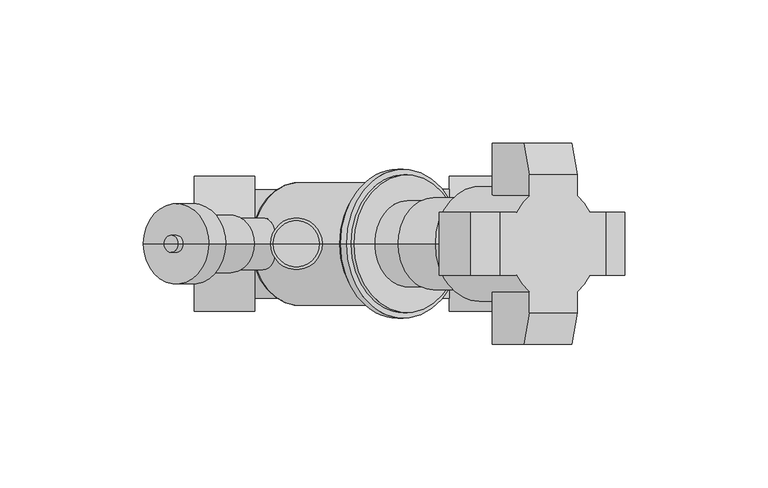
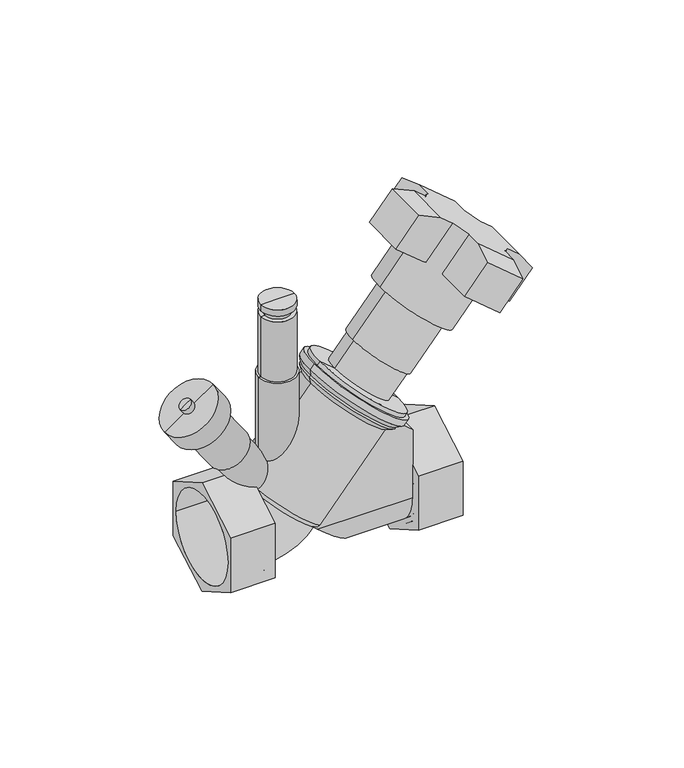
"""IFC4 building model written with IfcOpenShell, lengths in millimetres: valve geometry, 400_56_KOMF_VTR DN20-50 : DN 32, meet & vul/aftap."""

from ifc_helpers import new_model, si_unit, point, frame, origin, origin_2d, place, context, project, spatial, polyline, circle_curve, ellipse_curve, trimmed, segment, composite_curve, outline, extrude, source, transform, mapped, element, save
from ifc_brep_helpers import plane_surface, cylinder_surface, revolved_surface, advanced_brep


def valve_6c6028f1(model_context):
    return source(origin(), model_context, "Body", "SolidModel", [
        advanced_brep(
        [(-33.9, -23.5, 13.5677313), (-33.9, -23.5, -13.5677313), (-33.9, 0.0, -27.1354627), (-33.9, 23.5, -13.5677313), (-33.9, 23.5, 13.5677313), (-33.9, 0.0, 27.1354627), (-55.0, -23.5, 13.5677313), (-55.0, 0.0, 27.1354627), (-55.0, 23.5, 13.5677313), (-55.0, 23.5, -13.5677313), (-55.0, 0.0, -27.1354627), (-55.0, -23.5, -13.5677313), (-55.0, -21.2, 0.0), (-55.0, 21.2, 0.0), (-35.9, -21.2, 0.0), (-35.9, 21.2, 0.0)],
        [
            (0, 1),
            (1, 2),
            (2, 3),
            (3, 4),
            (4, 5),
            (5, 0),
            (6, 7),
            (7, 8),
            (8, 9),
            (9, 10),
            (10, 11),
            (11, 6),
            (12, 13, circle_curve(frame((-55.0, 0.0, 0.0), z_axis=(1.0, 0.0, 0.0), x_axis=(0.0, 1.0, 0.0)), 21.2)),
            (13, 12, circle_curve(frame((-55.0, 0.0, 0.0), z_axis=(1.0, 0.0, 0.0), x_axis=(0.0, 1.0, 0.0)), 21.2)),
            (0, 6),
            (11, 1),
            (10, 2),
            (9, 3),
            (8, 4),
            (7, 5),
            (14, 15, circle_curve(frame((-35.9, 0.0, 0.0), z_axis=(-1.0, 0.0, 0.0), x_axis=(0.0, 1.0, 0.0)), 21.2)),
            (15, 14, circle_curve(frame((-35.9, 0.0, 0.0), z_axis=(-1.0, 0.0, 0.0), x_axis=(0.0, 1.0, 0.0)), 21.2)),
            (15, 13),
            (12, 14),
        ],
        [
            plane_surface(frame((-33.9, -23.5, 13.5677313), z_axis=(1.0, 0.0, 0.0), x_axis=(0.0, 0.0, -1.0))),
            plane_surface(frame((-55.0, -23.5, 13.5677313), z_axis=(-1.0, 0.0, 0.0), x_axis=(0.0, 0.0, 1.0))),
            plane_surface(frame((-33.9, -23.5, 13.5677313), z_axis=(0.0, -1.0, 0.0), x_axis=(-1.0, 0.0, 0.0))),
            plane_surface(frame((-33.9, -23.5, -13.5677313), z_axis=(0.0, -0.5000000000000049, -0.8660254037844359), x_axis=(-1.0, 0.0, 0.0))),
            plane_surface(frame((-33.9, 0.0, -27.1354627), z_axis=(0.0, 0.5000000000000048, -0.8660254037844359), x_axis=(-1.0, 0.0, 0.0))),
            plane_surface(frame((-33.9, 23.5, -13.5677313), z_axis=(0.0, 1.0, 0.0), x_axis=(-1.0, 0.0, 0.0))),
            plane_surface(frame((-33.9, 23.5, 13.5677313), z_axis=(0.0, 0.500000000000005, 0.8660254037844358), x_axis=(-1.0, 0.0, 0.0))),
            plane_surface(frame((-33.9, 0.0, 27.1354627), z_axis=(0.0, -0.5000000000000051, 0.8660254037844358), x_axis=(-1.0, 0.0, 0.0))),
            plane_surface(frame((-35.9, 21.2, 0.0), z_axis=(-1.0, 0.0, 0.0), x_axis=(0.0, 0.0, 1.0))),
            revolved_surface(polyline([(-35.9, 21.2, 0.0), (-55.0, 21.2, 0.0)]), (-55.0, 0.0, 0.0), (1.0, 0.0, 0.0)),
        ],
        [
            (0, [[1, 2, 3, 4, 5, 6]]),
            (1, [[7, 8, 9, 10, 11, 12], [13, 14]]),
            (2, [[-1, 15, -12, 16]]),
            (3, [[-2, -16, -11, 17]]),
            (4, [[-3, -17, -10, 18]]),
            (5, [[-4, -18, -9, 19]]),
            (6, [[-5, -19, -8, 20]]),
            (7, [[-6, -20, -7, -15]]),
            (8, [[21, 22]]),
            (9, [[-22, 23, -13, 24]]),
            (9, [[-21, -24, -14, -23]]),
        ],
    ),
        advanced_brep(
        [(55.0, -23.5, 13.5677313), (55.0, -23.5, -13.5677313), (55.0, 0.0, -27.1354627), (55.0, 23.5, -13.5677313), (55.0, 23.5, 13.5677313), (55.0, 0.0, 27.1354627), (55.0, 21.2, 0.0), (55.0, -21.2, 0.0), (33.9, -23.5, 13.5677313), (33.9, 0.0, 27.1354627), (33.9, 23.5, 13.5677313), (33.9, 23.5, -13.5677313), (33.9, 0.0, -27.1354627), (33.9, -23.5, -13.5677313), (35.9, -21.2, 0.0), (35.9, 21.2, 0.0)],
        [
            (0, 1),
            (1, 2),
            (2, 3),
            (3, 4),
            (4, 5),
            (5, 0),
            (6, 7, circle_curve(frame((55.0, 0.0, 0.0), z_axis=(-1.0, 0.0, 0.0), x_axis=(0.0, 1.0, 0.0)), 21.2)),
            (7, 6, circle_curve(frame((55.0, 0.0, 0.0), z_axis=(-1.0, 0.0, 0.0), x_axis=(0.0, 1.0, 0.0)), 21.2)),
            (8, 9),
            (9, 10),
            (10, 11),
            (11, 12),
            (12, 13),
            (13, 8),
            (0, 8),
            (13, 1),
            (12, 2),
            (11, 3),
            (10, 4),
            (9, 5),
            (14, 15, circle_curve(frame((35.9, 0.0, 0.0), z_axis=(1.0, 0.0, 0.0), x_axis=(0.0, 1.0, 0.0)), 21.2)),
            (15, 14, circle_curve(frame((35.9, 0.0, 0.0), z_axis=(1.0, 0.0, 0.0), x_axis=(0.0, 1.0, 0.0)), 21.2)),
            (14, 7),
            (6, 15),
        ],
        [
            plane_surface(frame((55.0, -23.5, 13.5677313), z_axis=(1.0, 0.0, 0.0), x_axis=(0.0, 0.0, -1.0))),
            plane_surface(frame((33.9, -23.5, 13.5677313), z_axis=(-1.0, 0.0, 0.0), x_axis=(0.0, 0.0, 1.0))),
            plane_surface(frame((55.0, -23.5, 13.5677313), z_axis=(0.0, -1.0, 0.0), x_axis=(-1.0, 0.0, 0.0))),
            plane_surface(frame((55.0, -23.5, -13.5677313), z_axis=(0.0, -0.5000000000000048, -0.8660254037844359), x_axis=(-1.0, 0.0, 0.0))),
            plane_surface(frame((55.0, 0.0, -27.1354627), z_axis=(0.0, 0.5000000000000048, -0.8660254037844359), x_axis=(-1.0, 0.0, 0.0))),
            plane_surface(frame((55.0, 23.5, -13.5677313), z_axis=(0.0, 1.0, 0.0), x_axis=(-1.0, 0.0, 0.0))),
            plane_surface(frame((55.0, 23.5, 13.5677313), z_axis=(0.0, 0.5000000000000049, 0.8660254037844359), x_axis=(-1.0, 0.0, 0.0))),
            plane_surface(frame((55.0, 0.0, 27.1354627), z_axis=(0.0, -0.5000000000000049, 0.8660254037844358), x_axis=(-1.0, 0.0, 0.0))),
            plane_surface(frame((35.9, 21.2, 0.0), z_axis=(1.0, 0.0, 0.0), x_axis=(0.0, 0.0, -1.0))),
            revolved_surface(polyline([(55.0, 21.2, 0.0), (35.9, 21.2, 0.0)]), (35.9, 0.0, 0.0), (1.0, 0.0, 0.0)),
        ],
        [
            (0, [[1, 2, 3, 4, 5, 6], [7, 8]]),
            (1, [[9, 10, 11, 12, 13, 14]]),
            (2, [[-1, 15, -14, 16]]),
            (3, [[-2, -16, -13, 17]]),
            (4, [[-3, -17, -12, 18]]),
            (5, [[-4, -18, -11, 19]]),
            (6, [[-5, -19, -10, 20]]),
            (7, [[-6, -20, -9, -15]]),
            (8, [[21, 22]]),
            (9, [[-21, 23, -7, 24]]),
            (9, [[-22, -24, -8, -23]]),
        ],
    ),
        extrude(outline(polyline([(19.0, 35.9), (38.6390767, 32.9270418), (51.2176131, 17.9365258), (0.0, 20.5983845), (0.0, 35.9), (19.0, 35.9)])), frame((0.0, -2.0, 0.0), z_axis=(0.0, 1.0, 0.0), x_axis=(0.0, 0.0, 1.0)), (0.0, 0.0, 1.0), 4.0),
        extrude(outline(composite_curve([segment(trimmed(circle_curve(origin_2d(), 21.2), [point((0.0, -21.2))], [point((0.0, 21.2))], False, "CARTESIAN"), True, "CONTINUOUS"), segment(trimmed(circle_curve(origin_2d(), 21.2), [point((0.0, 21.2))], [point((0.0, -21.2))], False, "CARTESIAN"), True, "CONTINUOUS")], self_intersect=False)), frame((33.9, 0.0, 0.0), z_axis=(1.0, 0.0, 0.0), x_axis=(0.0, 1.0, 0.0)), (0.0, 0.0, 1.0), 2.0),
        advanced_brep(
        [(19.222101, 0.0, 52.749702), (37.6071676, 0.0, 37.3227994), (0.8370344, 0.0, 68.1766046), (-34.2830222, 0.0, 19.3213938), (-4.4072889, 0.0, -5.747323), (-19.3451556, 0.0, 6.7870354), (-3.6757306, 0.0, 58.9091912), (29.2641804, 0.0, 31.269324), (-1.5896248, 0.0, -5.5008093), (-34.5295359, 0.0, 22.1390579), (-4.3052665, 0.0, 62.0482491), (32.4648668, 0.0, 31.1944438), (-3.6624789, 0.0, 62.8142935), (33.1076544, 0.0, 31.9604883), (-3.9089926, 0.0, 65.6319576), (35.9253185, 0.0, 32.2070019), (-1.9806297, 0.0, 67.930091), (37.8536813, 0.0, 34.5051353), (-0.4485409, 0.0, 66.6445157), (36.3215924, 0.0, 35.7907105)],
        [
            (0, 1),
            (1, 2, circle_curve(frame((19.222101, 0.0, 52.749702), z_axis=(0.6427876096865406, 0.0, 0.7660444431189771), x_axis=(0.7660444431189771, 0.0, -0.6427876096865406)), 24.0)),
            (2, 0),
            (2, 1, circle_curve(frame((19.222101, 0.0, 52.749702), z_axis=(0.6427876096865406, 0.0, 0.7660444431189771), x_axis=(0.7660444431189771, 0.0, -0.6427876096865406)), 24.0)),
            (3, 4, circle_curve(frame((-19.3451556, 0.0, 6.7870354), z_axis=(-0.6427876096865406, 0.0, -0.7660444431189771), x_axis=(0.7660444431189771, 0.0, -0.6427876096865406)), 19.5)),
            (4, 5),
            (5, 3),
            (4, 3, circle_curve(frame((-19.3451556, 0.0, 6.7870354), z_axis=(-0.6427876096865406, 0.0, -0.7660444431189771), x_axis=(0.7660444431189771, 0.0, -0.6427876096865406)), 19.5)),
            (6, 7, circle_curve(frame((12.7942249, 0.0, 45.0892576), z_axis=(-0.6427876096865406, 0.0, -0.7660444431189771), x_axis=(0.7660444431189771, 0.0, -0.6427876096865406)), 21.5)),
            (7, 8),
            (8, 9, circle_curve(frame((-18.0595804, 0.0, 8.3191243), z_axis=(0.6427876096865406, 0.0, 0.7660444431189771), x_axis=(0.7660444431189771, 0.0, -0.6427876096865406)), 21.5)),
            (9, 6),
            (7, 6, circle_curve(frame((12.7942249, 0.0, 45.0892576), z_axis=(-0.6427876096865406, 0.0, -0.7660444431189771), x_axis=(0.7660444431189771, 0.0, -0.6427876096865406)), 21.5)),
            (9, 8, circle_curve(frame((-18.0595804, 0.0, 8.3191243), z_axis=(0.6427876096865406, 0.0, 0.7660444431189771), x_axis=(0.7660444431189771, 0.0, -0.6427876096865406)), 21.5)),
            (6, 10),
            (10, 11, circle_curve(frame((14.0798001, 0.0, 46.6213465), z_axis=(-0.6427876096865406, 0.0, -0.7660444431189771), x_axis=(0.7660444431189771, 0.0, -0.6427876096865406)), 24.0)),
            (11, 7),
            (11, 10, circle_curve(frame((14.0798001, 0.0, 46.6213465), z_axis=(-0.6427876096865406, 0.0, -0.7660444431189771), x_axis=(0.7660444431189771, 0.0, -0.6427876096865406)), 24.0)),
            (10, 12),
            (12, 13, circle_curve(frame((14.7225877, 0.0, 47.3873909), z_axis=(-0.6427876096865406, 0.0, -0.7660444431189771), x_axis=(0.7660444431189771, 0.0, -0.6427876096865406)), 24.0)),
            (13, 11),
            (13, 12, circle_curve(frame((14.7225877, 0.0, 47.3873909), z_axis=(-0.6427876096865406, 0.0, -0.7660444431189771), x_axis=(0.7660444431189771, 0.0, -0.6427876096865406)), 24.0)),
            (12, 14),
            (14, 15, circle_curve(frame((16.008163, 0.0, 48.9194798), z_axis=(-0.6427876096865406, 0.0, -0.7660444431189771), x_axis=(0.7660444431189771, 0.0, -0.6427876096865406)), 26.0)),
            (15, 13),
            (15, 14, circle_curve(frame((16.008163, 0.0, 48.9194798), z_axis=(-0.6427876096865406, 0.0, -0.7660444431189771), x_axis=(0.7660444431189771, 0.0, -0.6427876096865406)), 26.0)),
            (14, 16),
            (16, 17, circle_curve(frame((17.9365258, 0.0, 51.2176131), z_axis=(-0.6427876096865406, 0.0, -0.7660444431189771), x_axis=(0.7660444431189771, 0.0, -0.6427876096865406)), 26.0)),
            (17, 15),
            (17, 16, circle_curve(frame((17.9365258, 0.0, 51.2176131), z_axis=(-0.6427876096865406, 0.0, -0.7660444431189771), x_axis=(0.7660444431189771, 0.0, -0.6427876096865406)), 26.0)),
            (16, 18),
            (18, 19, circle_curve(frame((17.9365258, 0.0, 51.2176131), z_axis=(-0.6427876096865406, 0.0, -0.7660444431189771), x_axis=(0.7660444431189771, 0.0, -0.6427876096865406)), 24.0)),
            (19, 17),
            (19, 18, circle_curve(frame((17.9365258, 0.0, 51.2176131), z_axis=(-0.6427876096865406, 0.0, -0.7660444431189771), x_axis=(0.7660444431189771, 0.0, -0.6427876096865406)), 24.0)),
            (1, 19),
            (18, 2),
            (3, 9, circle_curve(frame((-32.997447, 0.0, 20.8534827), z_axis=(0.0, 1.0000000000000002, 0.0), x_axis=(0.6427876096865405, 0.0, 0.7660444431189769)), 2.0)),
            (8, 4, circle_curve(frame((-3.1217137, 0.0, -4.2152341), z_axis=(0.0, 1.0000000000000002, 0.0), x_axis=(0.6427876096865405, 0.0, 0.7660444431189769)), 2.0)),
        ],
        [
            plane_surface(frame((19.222101, 0.0, 52.749702), z_axis=(0.6427876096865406, 0.0, 0.7660444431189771), x_axis=(0.7660444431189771, 0.0, -0.6427876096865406))),
            plane_surface(frame((-19.3451556, 0.0, 6.7870354), z_axis=(-0.6427876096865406, 0.0, -0.7660444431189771), x_axis=(0.7660444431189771, 0.0, -0.6427876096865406))),
            cylinder_surface(frame((-25.0401545, 0.0, 0.0), z_axis=(0.6427876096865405, 0.0, 0.7660444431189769), x_axis=(0.7660444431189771, 0.0, -0.6427876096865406)), 21.5),
            revolved_surface(polyline([(29.2641804, 0.0, 31.269324), (32.4648668, 0.0, 31.1944438)]), (-25.0401545, 0.0, 0.0), (0.6427876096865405, 0.0, 0.7660444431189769)),
            cylinder_surface(frame((-25.0401545, 0.0, 0.0), z_axis=(0.6427876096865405, 0.0, 0.7660444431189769), x_axis=(0.7660444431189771, 0.0, -0.6427876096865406)), 24.0),
            revolved_surface(polyline([(33.1076544, 0.0, 31.9604883), (35.9253185, 0.0, 32.2070019)]), (-25.0401545, 0.0, 0.0), (0.6427876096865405, 0.0, 0.7660444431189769)),
            cylinder_surface(frame((-25.0401545, 0.0, 0.0), z_axis=(0.6427876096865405, 0.0, 0.7660444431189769), x_axis=(0.7660444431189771, 0.0, -0.6427876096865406)), 26.0),
            plane_surface(frame((17.9365258, 0.0, 51.2176131), z_axis=(0.6427876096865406, 0.0, 0.7660444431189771), x_axis=(0.7660444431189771, 0.0, -0.6427876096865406))),
            revolved_surface(trimmed(ellipse_curve(frame((-3.1217137, 0.0, -4.2152341), z_axis=(0.0, -1.0000000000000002, 0.0), x_axis=(0.6427876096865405, 0.0, 0.7660444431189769)), 2.0, 2.0), [point((-4.4072889, 0.0, -5.747323))], [point((-1.5896248, 0.0, -5.5008093))], True, "CARTESIAN"), (-25.0401545, 0.0, 0.0), (0.6427876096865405, 0.0, 0.7660444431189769)),
        ],
        [
            (0, [[1, 2, 3]]),
            (0, [[-1, -3, 4]]),
            (1, [[5, 6, 7]]),
            (1, [[-6, 8, -7]]),
            (2, [[9, 10, 11, 12]]),
            (2, [[-10, 13, -12, 14]]),
            (3, [[-9, 15, 16, 17]]),
            (3, [[-13, -17, 18, -15]]),
            (4, [[-16, 19, 20, 21]]),
            (4, [[-18, -21, 22, -19]]),
            (5, [[-20, 23, 24, 25]]),
            (5, [[-22, -25, 26, -23]]),
            (6, [[-24, 27, 28, 29]]),
            (6, [[-26, -29, 30, -27]]),
            (7, [[-28, 31, 32, 33]]),
            (7, [[-30, -33, 34, -31]]),
            (4, [[-2, 35, -32, 36]]),
            (4, [[-4, -36, -34, -35]]),
            (8, [[-5, 37, -11, 38]]),
            (8, [[-8, -38, -14, -37]]),
        ],
    ),
        advanced_brep(
        [(-28.3451556, 0.0, 70.5206582), (-10.3451556, 0.0, 70.5206582), (-10.3451556, 0.0, 6.7870354), (-28.3451556, 0.0, 6.7870354), (-27.3451556, 0.0, 70.5206582), (-11.3451556, 0.0, 70.5206582), (-27.3451556, 0.0, 100.5206582), (-11.3451556, 0.0, 100.5206582), (-25.3451556, 0.0, 100.5206582), (-13.3451556, 0.0, 100.5206582), (-19.3451556, 0.0, 6.7870354), (-25.3451556, 0.0, 103.5206582), (-13.3451556, 0.0, 103.5206582), (-27.3451556, 0.0, 103.5206582), (-11.3451556, 0.0, 103.5206582), (-27.3451556, 0.0, 106.5206582), (-11.3451556, 0.0, 106.5206582), (-19.3451556, 0.0, 106.5206582)],
        [
            (0, 1, circle_curve(frame((-19.3451556, 0.0, 70.5206582), z_axis=(0.0, 0.0, -1.0), x_axis=(1.0, 0.0, 0.0)), 9.0)),
            (1, 2),
            (2, 3, circle_curve(frame((-19.3451556, 0.0, 6.7870354), z_axis=(0.0, 0.0, 1.0), x_axis=(1.0, 0.0, 0.0)), 9.0)),
            (3, 0),
            (1, 0, circle_curve(frame((-19.3451556, 0.0, 70.5206582), z_axis=(0.0, 0.0, -1.0), x_axis=(1.0, 0.0, 0.0)), 9.0)),
            (3, 2, circle_curve(frame((-19.3451556, 0.0, 6.7870354), z_axis=(0.0, 0.0, 1.0), x_axis=(1.0, 0.0, 0.0)), 9.0)),
            (4, 5, circle_curve(frame((-19.3451556, 0.0, 70.5206582), z_axis=(0.0, 0.0, -1.0), x_axis=(1.0, 0.0, 0.0)), 8.0)),
            (5, 1),
            (0, 4),
            (5, 4, circle_curve(frame((-19.3451556, 0.0, 70.5206582), z_axis=(0.0, 0.0, -1.0), x_axis=(1.0, 0.0, 0.0)), 8.0)),
            (6, 7, circle_curve(frame((-19.3451556, 0.0, 100.5206582), z_axis=(0.0, 0.0, -1.0), x_axis=(1.0, 0.0, 0.0)), 8.0)),
            (7, 5),
            (4, 6),
            (7, 6, circle_curve(frame((-19.3451556, 0.0, 100.5206582), z_axis=(0.0, 0.0, -1.0), x_axis=(1.0, 0.0, 0.0)), 8.0)),
            (8, 9, circle_curve(frame((-19.3451556, 0.0, 100.5206582), z_axis=(0.0, 0.0, -1.0), x_axis=(1.0, 0.0, 0.0)), 6.0)),
            (9, 7),
            (6, 8),
            (9, 8, circle_curve(frame((-19.3451556, 0.0, 100.5206582), z_axis=(0.0, 0.0, -1.0), x_axis=(1.0, 0.0, 0.0)), 6.0)),
            (2, 10),
            (10, 3),
            (11, 12, circle_curve(frame((-19.3451556, 0.0, 103.5206582), z_axis=(0.0, 0.0, -1.0), x_axis=(1.0, 0.0, 0.0)), 6.0)),
            (12, 9),
            (8, 11),
            (12, 11, circle_curve(frame((-19.3451556, 0.0, 103.5206582), z_axis=(0.0, 0.0, -1.0), x_axis=(1.0, 0.0, 0.0)), 6.0)),
            (13, 14, circle_curve(frame((-19.3451556, 0.0, 103.5206582), z_axis=(0.0, 0.0, -1.0), x_axis=(1.0, 0.0, 0.0)), 8.0)),
            (14, 12),
            (11, 13),
            (14, 13, circle_curve(frame((-19.3451556, 0.0, 103.5206582), z_axis=(0.0, 0.0, -1.0), x_axis=(1.0, 0.0, 0.0)), 8.0)),
            (15, 16, circle_curve(frame((-19.3451556, 0.0, 106.5206582), z_axis=(0.0, 0.0, -1.0), x_axis=(1.0, 0.0, 0.0)), 8.0)),
            (16, 14),
            (13, 15),
            (16, 15, circle_curve(frame((-19.3451556, 0.0, 106.5206582), z_axis=(0.0, 0.0, -1.0), x_axis=(1.0, 0.0, 0.0)), 8.0)),
            (17, 16),
            (15, 17),
        ],
        [
            cylinder_surface(frame((-19.3451556, 0.0, 6.7870354), z_axis=(0.0, 0.0, 1.0), x_axis=(1.0, 0.0, 0.0)), 9.0),
            plane_surface(frame((-19.3451556, 0.0, 70.5206582), z_axis=(0.0, 0.0, 1.0), x_axis=(1.0, 0.0, 0.0))),
            cylinder_surface(frame((-19.3451556, 0.0, 6.7870354), z_axis=(0.0, 0.0, 1.0), x_axis=(1.0, 0.0, 0.0)), 8.0),
            plane_surface(frame((-19.3451556, 0.0, 100.5206582), z_axis=(0.0, 0.0, 1.0), x_axis=(1.0, 0.0, 0.0))),
            plane_surface(frame((-19.3451556, 0.0, 6.7870354), z_axis=(0.0, 0.0, -1.0), x_axis=(1.0, 0.0, 0.0))),
            cylinder_surface(frame((-19.3451556, 0.0, 6.7870354), z_axis=(0.0, 0.0, 1.0), x_axis=(1.0, 0.0, 0.0)), 6.0),
            plane_surface(frame((-19.3451556, 0.0, 103.5206582), z_axis=(0.0, 0.0, -1.0), x_axis=(1.0, 0.0, 0.0))),
            plane_surface(frame((-19.3451556, 0.0, 106.5206582), z_axis=(0.0, 0.0, 1.0), x_axis=(1.0, 0.0, 0.0))),
        ],
        [
            (0, [[1, 2, 3, 4]]),
            (0, [[5, -4, 6, -2]]),
            (1, [[7, 8, -1, 9]]),
            (1, [[10, -9, -5, -8]]),
            (2, [[11, 12, -7, 13]]),
            (2, [[14, -13, -10, -12]]),
            (3, [[15, 16, -11, 17]]),
            (3, [[18, -17, -14, -16]]),
            (4, [[-3, 19, 20]]),
            (4, [[-6, -20, -19]]),
            (5, [[21, 22, -15, 23]]),
            (5, [[24, -23, -18, -22]]),
            (6, [[25, 26, -21, 27]]),
            (6, [[28, -27, -24, -26]]),
            (2, [[29, 30, -25, 31]]),
            (2, [[32, -31, -28, -30]]),
            (7, [[33, -29, 34]]),
            (7, [[-34, -32, -33]]),
        ],
    ),
        advanced_brep(
        [(-63.3439907, 0.0, 50.4459693), (-45.3226457, 0.0, 63.0646509), (-46.1417978, 0.0, 62.4910745), (-62.5248386, 0.0, 51.0195458), (-26.717524, 0.0, 1.6248475), (-11.9727872, 0.0, 11.9492233), (-19.3451556, 0.0, 6.7870354), (-49.6605814, 0.0, 34.3909293), (-34.9158446, 0.0, 44.7153051), (-50.4797335, 0.0, 33.8173528), (-34.0966926, 0.0, 45.2888816), (-64.4911436, 0.0, 52.0842734), (-46.4697986, 0.0, 64.702955), (-66.9485997, 0.0, 50.3635441), (-44.0123425, 0.0, 66.4236843), (-72.6843641, 0.0, 58.5550645), (-49.7481068, 0.0, 74.6152048), (-63.6736916, 0.0, 64.8644053), (-58.7587793, 0.0, 68.305864), (-65.3944209, 0.0, 67.3218615), (-60.4795086, 0.0, 70.7633201), (-62.9369647, 0.0, 69.0425908)],
        [
            (0, 1, circle_curve(frame((-54.3333182, 0.0, 56.7553101), z_axis=(0.5735764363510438, 0.0, -0.8191520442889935), x_axis=(0.8191520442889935, 0.0, 0.5735764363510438)), 11.0)),
            (1, 2),
            (2, 3, circle_curve(frame((-54.3333182, 0.0, 56.7553101), z_axis=(-0.5735764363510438, 0.0, 0.8191520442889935), x_axis=(0.8191520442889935, 0.0, 0.5735764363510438)), 10.0)),
            (3, 0),
            (1, 0, circle_curve(frame((-54.3333182, 0.0, 56.7553101), z_axis=(0.5735764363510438, 0.0, -0.8191520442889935), x_axis=(0.8191520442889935, 0.0, 0.5735764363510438)), 11.0)),
            (3, 2, circle_curve(frame((-54.3333182, 0.0, 56.7553101), z_axis=(-0.5735764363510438, 0.0, 0.8191520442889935), x_axis=(0.8191520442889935, 0.0, 0.5735764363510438)), 10.0)),
            (4, 5, circle_curve(frame((-19.3451556, 0.0, 6.7870354), z_axis=(0.5735764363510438, 0.0, -0.8191520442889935), x_axis=(0.8191520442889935, 0.0, 0.5735764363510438)), 9.0)),
            (5, 6),
            (6, 4),
            (5, 4, circle_curve(frame((-19.3451556, 0.0, 6.7870354), z_axis=(0.5735764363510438, 0.0, -0.8191520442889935), x_axis=(0.8191520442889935, 0.0, 0.5735764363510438)), 9.0)),
            (7, 8, circle_curve(frame((-42.288213, 0.0, 39.5531172), z_axis=(0.5735764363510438, 0.0, -0.8191520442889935), x_axis=(0.8191520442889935, 0.0, 0.5735764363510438)), 9.0)),
            (8, 5),
            (4, 7),
            (8, 7, circle_curve(frame((-42.288213, 0.0, 39.5531172), z_axis=(0.5735764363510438, 0.0, -0.8191520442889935), x_axis=(0.8191520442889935, 0.0, 0.5735764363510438)), 9.0)),
            (9, 10, circle_curve(frame((-42.288213, 0.0, 39.5531172), z_axis=(0.5735764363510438, 0.0, -0.8191520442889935), x_axis=(0.8191520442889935, 0.0, 0.5735764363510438)), 10.0)),
            (10, 8),
            (7, 9),
            (10, 9, circle_curve(frame((-42.288213, 0.0, 39.5531172), z_axis=(0.5735764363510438, 0.0, -0.8191520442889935), x_axis=(0.8191520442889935, 0.0, 0.5735764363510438)), 10.0)),
            (2, 10),
            (9, 3),
            (11, 12, circle_curve(frame((-55.4804711, 0.0, 58.3936142), z_axis=(0.5735764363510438, 0.0, -0.8191520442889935), x_axis=(0.8191520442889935, 0.0, 0.5735764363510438)), 11.0)),
            (12, 1),
            (0, 11),
            (12, 11, circle_curve(frame((-55.4804711, 0.0, 58.3936142), z_axis=(0.5735764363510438, 0.0, -0.8191520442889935), x_axis=(0.8191520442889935, 0.0, 0.5735764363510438)), 11.0)),
            (13, 14, circle_curve(frame((-55.4804711, 0.0, 58.3936142), z_axis=(0.5735764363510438, 0.0, -0.8191520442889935), x_axis=(0.8191520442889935, 0.0, 0.5735764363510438)), 14.0)),
            (14, 12),
            (11, 13),
            (14, 13, circle_curve(frame((-55.4804711, 0.0, 58.3936142), z_axis=(0.5735764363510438, 0.0, -0.8191520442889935), x_axis=(0.8191520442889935, 0.0, 0.5735764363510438)), 14.0)),
            (15, 16, circle_curve(frame((-61.2162354, 0.0, 66.5851346), z_axis=(0.5735764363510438, 0.0, -0.8191520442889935), x_axis=(0.8191520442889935, 0.0, 0.5735764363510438)), 14.0)),
            (16, 14),
            (13, 15),
            (16, 15, circle_curve(frame((-61.2162354, 0.0, 66.5851346), z_axis=(0.5735764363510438, 0.0, -0.8191520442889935), x_axis=(0.8191520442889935, 0.0, 0.5735764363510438)), 14.0)),
            (17, 18, circle_curve(frame((-61.2162354, 0.0, 66.5851346), z_axis=(0.5735764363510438, 0.0, -0.8191520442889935), x_axis=(0.8191520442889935, 0.0, 0.5735764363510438)), 3.0)),
            (18, 16),
            (15, 17),
            (18, 17, circle_curve(frame((-61.2162354, 0.0, 66.5851346), z_axis=(0.5735764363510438, 0.0, -0.8191520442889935), x_axis=(0.8191520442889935, 0.0, 0.5735764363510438)), 3.0)),
            (19, 20, circle_curve(frame((-62.9369647, 0.0, 69.0425908), z_axis=(0.5735764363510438, 0.0, -0.8191520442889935), x_axis=(0.8191520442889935, 0.0, 0.5735764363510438)), 3.0)),
            (20, 18),
            (17, 19),
            (20, 19, circle_curve(frame((-62.9369647, 0.0, 69.0425908), z_axis=(0.5735764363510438, 0.0, -0.8191520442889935), x_axis=(0.8191520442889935, 0.0, 0.5735764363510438)), 3.0)),
            (21, 20),
            (19, 21),
        ],
        [
            plane_surface(frame((-54.3333182, 0.0, 56.7553101), z_axis=(0.5735764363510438, 0.0, -0.8191520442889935), x_axis=(0.8191520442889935, 0.0, 0.5735764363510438))),
            plane_surface(frame((-19.3451556, 0.0, 6.7870354), z_axis=(0.5735764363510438, 0.0, -0.8191520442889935), x_axis=(0.8191520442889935, 0.0, 0.5735764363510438))),
            cylinder_surface(frame((-19.3451556, 0.0, 6.7870354), z_axis=(-0.5735764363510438, 0.0, 0.8191520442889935), x_axis=(0.8191520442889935, 0.0, 0.5735764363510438)), 9.0),
            plane_surface(frame((-42.288213, 0.0, 39.5531172), z_axis=(0.5735764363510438, 0.0, -0.8191520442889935), x_axis=(0.8191520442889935, 0.0, 0.5735764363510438))),
            cylinder_surface(frame((-19.3451556, 0.0, 6.7870354), z_axis=(-0.5735764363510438, 0.0, 0.8191520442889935), x_axis=(0.8191520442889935, 0.0, 0.5735764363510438)), 10.0),
            cylinder_surface(frame((-19.3451556, 0.0, 6.7870354), z_axis=(-0.5735764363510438, 0.0, 0.8191520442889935), x_axis=(0.8191520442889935, 0.0, 0.5735764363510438)), 11.0),
            plane_surface(frame((-55.4804711, 0.0, 58.3936142), z_axis=(0.5735764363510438, 0.0, -0.8191520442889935), x_axis=(0.8191520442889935, 0.0, 0.5735764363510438))),
            cylinder_surface(frame((-19.3451556, 0.0, 6.7870354), z_axis=(-0.5735764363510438, 0.0, 0.8191520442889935), x_axis=(0.8191520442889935, 0.0, 0.5735764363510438)), 14.0),
            plane_surface(frame((-61.2162354, 0.0, 66.5851346), z_axis=(-0.5735764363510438, 0.0, 0.8191520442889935), x_axis=(0.8191520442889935, 0.0, 0.5735764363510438))),
            cylinder_surface(frame((-19.3451556, 0.0, 6.7870354), z_axis=(-0.5735764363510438, 0.0, 0.8191520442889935), x_axis=(0.8191520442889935, 0.0, 0.5735764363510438)), 3.0),
            plane_surface(frame((-62.9369647, 0.0, 69.0425908), z_axis=(-0.5735764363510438, 0.0, 0.8191520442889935), x_axis=(0.8191520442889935, 0.0, 0.5735764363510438))),
        ],
        [
            (0, [[1, 2, 3, 4]]),
            (0, [[5, -4, 6, -2]]),
            (1, [[7, 8, 9]]),
            (1, [[10, -9, -8]]),
            (2, [[11, 12, -7, 13]]),
            (2, [[14, -13, -10, -12]]),
            (3, [[15, 16, -11, 17]]),
            (3, [[18, -17, -14, -16]]),
            (4, [[-3, 19, -15, 20]]),
            (4, [[-6, -20, -18, -19]]),
            (5, [[21, 22, -1, 23]]),
            (5, [[24, -23, -5, -22]]),
            (6, [[25, 26, -21, 27]]),
            (6, [[28, -27, -24, -26]]),
            (7, [[29, 30, -25, 31]]),
            (7, [[32, -31, -28, -30]]),
            (8, [[33, 34, -29, 35]]),
            (8, [[36, -35, -32, -34]]),
            (9, [[37, 38, -33, 39]]),
            (9, [[40, -39, -36, -38]]),
            (10, [[41, -37, 42]]),
            (10, [[-42, -40, -41]]),
        ],
    ),
        advanced_brep(
        [(16.9278345, 0.0, 73.351359), (39.9091677, 0.0, 54.0677307), (30.7127676, 0.0, 43.1078879), (7.7314344, 0.0, 62.3915161), (16.16179, 0.0, 73.9941466), (40.6752122, 0.0, 53.4249431), (32.2314803, 0.0, 93.1452577), (56.7449024, 0.0, 72.5760542), (29.1673025, 0.0, 95.7164081), (59.8090802, 0.0, 70.0049037), (42.0230547, 0.0, 111.037297), (44.5484787, 11.0, 108.9182146), (57.4042309, 11.0, 124.2391035), (61.7732069, 16.7032931, 120.5730974), (48.9174547, 16.7032931, 105.2522085), (65.7704324, 16.7032931, 91.1108811), (78.6261846, 16.7032931, 106.43177), (82.9951606, 11.0, 102.7657638), (70.1394084, 11.0, 87.444875), (72.6648324, 0.0, 85.3257926), (70.1394084, -11.0, 87.444875), (82.9951606, -11.0, 102.7657638), (78.6261846, -16.7032931, 106.43177), (65.7704324, -16.7032931, 91.1108811), (48.9174547, -16.7032931, 105.2522085), (61.7732069, -16.7032931, 120.5730974), (57.4042309, -11.0, 124.2391035), (44.5484787, -11.0, 108.9182146), (88.5847624, -11.0, 98.075531), (88.5847624, 11.0, 98.075531), (78.6261846, 24.0, 106.43177), (61.7732069, 24.0, 120.5730974), (51.8146291, 11.0, 128.9293363), (51.8146291, -11.0, 128.9293363), (61.7732069, -24.0, 120.5730974), (78.6261846, -24.0, 106.43177), (19.222101, 0.0, 52.749702), (41.4597774, -11.0, 133.7018667), (30.532388, -11.0, 120.6791111), (84.155499, -11.0, 75.6839785), (95.0828884, -11.0, 88.706734), (95.0828884, 11.0, 88.706734), (84.155499, 11.0, 75.6839785), (30.532388, 11.0, 120.6791111), (41.4597774, 11.0, 133.7018667), (65.7704324, 35.0, 91.1108811), (76.6978218, 35.0, 104.1336366), (76.6978218, -35.0, 104.1336366), (65.7704324, -35.0, 91.1108811), (48.9174547, -35.0, 105.2522085), (59.844844, -35.0, 118.274964), (59.844844, 35.0, 118.274964), (48.9174547, 35.0, 105.2522085)],
        [
            (0, 1, circle_curve(frame((28.4185011, 0.0, 63.7095449), z_axis=(-0.6427876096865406, 0.0, -0.7660444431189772), x_axis=(0.7660444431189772, 0.0, -0.6427876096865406)), 15.0)),
            (1, 2),
            (2, 3, circle_curve(frame((19.222101, 0.0, 52.749702), z_axis=(0.6427876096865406, 0.0, 0.7660444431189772), x_axis=(0.7660444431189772, 0.0, -0.6427876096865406)), 15.0)),
            (3, 0),
            (1, 0, circle_curve(frame((28.4185011, 0.0, 63.7095449), z_axis=(-0.6427876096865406, 0.0, -0.7660444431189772), x_axis=(0.7660444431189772, 0.0, -0.6427876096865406)), 15.0)),
            (3, 2, circle_curve(frame((19.222101, 0.0, 52.749702), z_axis=(0.6427876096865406, 0.0, 0.7660444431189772), x_axis=(0.7660444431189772, 0.0, -0.6427876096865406)), 15.0)),
            (0, 4),
            (4, 5, circle_curve(frame((28.4185011, 0.0, 63.7095449), z_axis=(-0.6427876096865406, 0.0, -0.7660444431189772), x_axis=(0.7660444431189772, 0.0, -0.6427876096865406)), 16.0)),
            (5, 1),
            (5, 4, circle_curve(frame((28.4185011, 0.0, 63.7095449), z_axis=(-0.6427876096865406, 0.0, -0.7660444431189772), x_axis=(0.7660444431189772, 0.0, -0.6427876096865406)), 16.0)),
            (4, 6),
            (6, 7, circle_curve(frame((44.4881913, 0.0, 82.8606559), z_axis=(-0.6427876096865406, 0.0, -0.7660444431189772), x_axis=(0.7660444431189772, 0.0, -0.6427876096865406)), 16.0)),
            (7, 5),
            (7, 6, circle_curve(frame((44.4881913, 0.0, 82.8606559), z_axis=(-0.6427876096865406, 0.0, -0.7660444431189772), x_axis=(0.7660444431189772, 0.0, -0.6427876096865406)), 16.0)),
            (6, 8),
            (8, 9, circle_curve(frame((44.4881913, 0.0, 82.8606559), z_axis=(-0.6427876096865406, 0.0, -0.7660444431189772), x_axis=(0.7660444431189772, 0.0, -0.6427876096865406)), 20.0)),
            (9, 7),
            (9, 8, circle_curve(frame((44.4881913, 0.0, 82.8606559), z_axis=(-0.6427876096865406, 0.0, -0.7660444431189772), x_axis=(0.7660444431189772, 0.0, -0.6427876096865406)), 20.0)),
            (8, 10),
            (10, 11, circle_curve(frame((57.3439435, 0.0, 98.1815448), z_axis=(-0.6427876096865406, 0.0, -0.7660444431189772), x_axis=(0.7660444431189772, 0.0, -0.6427876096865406)), 20.0)),
            (11, 12),
            (12, 13, circle_curve(frame((70.1996957, 0.0, 113.5024337), z_axis=(-0.6427876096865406, 0.0, -0.7660444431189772), x_axis=(0.7660444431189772, 0.0, -0.6427876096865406)), 20.0)),
            (13, 14),
            (14, 15, circle_curve(frame((57.3439435, 0.0, 98.1815448), z_axis=(-0.6427876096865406, 0.0, -0.7660444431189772), x_axis=(0.7660444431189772, 0.0, -0.6427876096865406)), 20.0)),
            (15, 16),
            (16, 17, circle_curve(frame((70.1996957, 0.0, 113.5024337), z_axis=(-0.6427876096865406, 0.0, -0.7660444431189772), x_axis=(0.7660444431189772, 0.0, -0.6427876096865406)), 20.0)),
            (17, 18),
            (18, 19, circle_curve(frame((57.3439435, 0.0, 98.1815448), z_axis=(-0.6427876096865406, 0.0, -0.7660444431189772), x_axis=(0.7660444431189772, 0.0, -0.6427876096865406)), 20.0)),
            (19, 9),
            (19, 20, circle_curve(frame((57.3439435, 0.0, 98.1815448), z_axis=(-0.6427876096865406, 0.0, -0.7660444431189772), x_axis=(0.7660444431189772, 0.0, -0.6427876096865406)), 20.0)),
            (20, 21),
            (21, 22, circle_curve(frame((70.1996957, 0.0, 113.5024337), z_axis=(-0.6427876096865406, 0.0, -0.7660444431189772), x_axis=(0.7660444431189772, 0.0, -0.6427876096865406)), 20.0)),
            (22, 23),
            (23, 24, circle_curve(frame((57.3439435, 0.0, 98.1815448), z_axis=(-0.6427876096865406, 0.0, -0.7660444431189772), x_axis=(0.7660444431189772, 0.0, -0.6427876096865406)), 20.0)),
            (24, 25),
            (25, 26, circle_curve(frame((70.1996957, 0.0, 113.5024337), z_axis=(-0.6427876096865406, 0.0, -0.7660444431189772), x_axis=(0.7660444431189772, 0.0, -0.6427876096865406)), 20.0)),
            (26, 27),
            (27, 10, circle_curve(frame((57.3439435, 0.0, 98.1815448), z_axis=(-0.6427876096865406, 0.0, -0.7660444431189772), x_axis=(0.7660444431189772, 0.0, -0.6427876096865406)), 20.0)),
            (28, 29),
            (29, 17),
            (16, 30),
            (30, 31),
            (31, 13),
            (12, 32),
            (32, 33),
            (33, 26),
            (25, 34),
            (34, 35),
            (35, 22),
            (21, 28),
            (2, 36),
            (36, 3),
            (33, 37),
            (37, 38),
            (38, 27),
            (39, 40),
            (40, 28),
            (20, 39),
            (29, 41),
            (41, 42),
            (42, 18),
            (43, 44),
            (44, 32),
            (11, 43),
            (44, 37),
            (43, 38),
            (42, 39),
            (41, 40),
            (45, 46),
            (46, 30),
            (15, 45),
            (35, 47),
            (47, 48),
            (48, 23),
            (49, 50),
            (50, 34),
            (24, 49),
            (31, 51),
            (51, 52),
            (52, 14),
            (45, 52),
            (51, 46),
            (50, 47),
            (49, 48),
        ],
        [
            cylinder_surface(frame((-25.0401545, 0.0, 0.0), z_axis=(0.6427876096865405, 0.0, 0.766044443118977), x_axis=(0.7660444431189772, 0.0, -0.6427876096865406)), 15.0),
            plane_surface(frame((28.4185011, 0.0, 63.7095449), z_axis=(-0.6427876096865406, 0.0, -0.7660444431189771), x_axis=(0.7660444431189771, 0.0, -0.6427876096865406))),
            cylinder_surface(frame((-25.0401545, 0.0, 0.0), z_axis=(0.6427876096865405, 0.0, 0.766044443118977), x_axis=(0.7660444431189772, 0.0, -0.6427876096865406)), 16.0),
            plane_surface(frame((44.4881913, 0.0, 82.8606559), z_axis=(-0.6427876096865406, 0.0, -0.7660444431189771), x_axis=(0.7660444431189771, 0.0, -0.6427876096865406))),
            cylinder_surface(frame((-25.0401545, 0.0, 0.0), z_axis=(0.6427876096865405, 0.0, 0.766044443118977), x_axis=(0.7660444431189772, 0.0, -0.6427876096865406)), 20.0),
            plane_surface(frame((70.1996957, 0.0, 113.5024337), z_axis=(0.6427876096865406, 0.0, 0.7660444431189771), x_axis=(0.7660444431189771, 0.0, -0.6427876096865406))),
            plane_surface(frame((19.222101, 0.0, 52.749702), z_axis=(-0.6427876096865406, 0.0, -0.7660444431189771), x_axis=(0.7660444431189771, 0.0, -0.6427876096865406))),
            plane_surface(frame((51.8146291, -11.0, 128.9293363), z_axis=(0.0, -1.0, 0.0), x_axis=(-0.7660444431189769, 0.0, 0.6427876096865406))),
            plane_surface(frame((51.8146291, 11.0, 128.9293363), z_axis=(0.0, 1.0, 0.0), x_axis=(0.7660444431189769, 0.0, -0.6427876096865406))),
            plane_surface(frame((51.8146291, -11.0, 128.9293363), z_axis=(0.4185786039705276, 0.0, 0.9081805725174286), x_axis=(0.0, 1.0, 0.0))),
            plane_surface(frame((41.4597774, -11.0, 133.7018667), z_axis=(-0.7660444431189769, 0.0, 0.6427876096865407), x_axis=(0.0, 1.0, 0.0))),
            plane_surface(frame((30.532388, -11.0, 120.6791111), z_axis=(-0.6427876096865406, 0.0, -0.7660444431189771), x_axis=(0.0, 1.0, 0.0))),
            plane_surface(frame((84.155499, -11.0, 75.6839785), z_axis=(0.7660444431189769, 0.0, -0.6427876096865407), x_axis=(0.0, 1.0, 0.0))),
            plane_surface(frame((95.0828884, -11.0, 88.706734), z_axis=(0.821697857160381, 0.0, 0.5699233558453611), x_axis=(0.0, 1.0, 0.0))),
            plane_surface(frame((76.6978218, 35.0, 104.1336366), z_axis=(0.766044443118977, 0.0, -0.6427876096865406), x_axis=(0.6427876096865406, 0.0, 0.766044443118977))),
            plane_surface(frame((59.844844, 35.0, 118.274964), z_axis=(-0.766044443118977, 0.0, 0.6427876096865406), x_axis=(-0.6427876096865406, 0.0, -0.766044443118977))),
            plane_surface(frame((65.7704324, 35.0, 91.1108811), z_axis=(0.0, 1.0, 0.0), x_axis=(-0.7660444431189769, 0.0, 0.6427876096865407))),
            plane_surface(frame((76.6978218, 35.0, 104.1336366), z_axis=(0.6201382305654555, 0.2631174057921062, 0.7390519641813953), x_axis=(-0.7660444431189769, 0.0, 0.6427876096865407))),
            plane_surface(frame((78.6261846, -24.0, 106.43177), z_axis=(0.6201382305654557, -0.26311740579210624, 0.7390519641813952), x_axis=(-0.7660444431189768, 0.0, 0.642787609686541))),
            plane_surface(frame((76.6978218, -35.0, 104.1336366), z_axis=(0.0, -1.0, 0.0), x_axis=(-0.7660444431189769, 0.0, 0.6427876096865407))),
            plane_surface(frame((65.7704324, -35.0, 91.1108811), z_axis=(-0.6427876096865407, 0.0, -0.7660444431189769), x_axis=(-0.7660444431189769, 0.0, 0.6427876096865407))),
        ],
        [
            (0, [[1, 2, 3, 4]]),
            (0, [[-2, 5, -4, 6]]),
            (1, [[-1, 7, 8, 9]]),
            (1, [[-5, -9, 10, -7]]),
            (2, [[-8, 11, 12, 13]]),
            (2, [[-10, -13, 14, -11]]),
            (3, [[-12, 15, 16, 17]]),
            (3, [[-14, -17, 18, -15]]),
            (4, [[-16, 19, 20, 21, 22, 23, 24, 25, 26, 27, 28, 29]]),
            (4, [[-18, -29, 30, 31, 32, 33, 34, 35, 36, 37, 38, -19]]),
            (5, [[39, 40, -26, 41, 42, 43, -22, 44, 45, 46, -36, 47, 48, 49, -32, 50]]),
            (6, [[-3, 51, 52]]),
            (6, [[-6, -52, -51]]),
            (7, [[53, 54, 55, -37, -46]]),
            (7, [[56, 57, -50, -31, 58]]),
            (8, [[59, 60, 61, -27, -40]]),
            (8, [[62, 63, -44, -21, 64]]),
            (9, [[-53, -45, -63, 65]]),
            (10, [[-54, -65, -62, 66]]),
            (11, [[-66, -64, -20, -38, -55]]),
            (11, [[67, -58, -30, -28, -61]]),
            (12, [[-56, -67, -60, 68]]),
            (13, [[-57, -68, -59, -39]]),
            (14, [[69, 70, -41, -25, 71]]),
            (14, [[72, 73, 74, -33, -49]]),
            (15, [[75, 76, -47, -35, 77]]),
            (15, [[78, 79, 80, -23, -43]]),
            (16, [[-69, 81, -79, 82]]),
            (17, [[-70, -82, -78, -42]]),
            (18, [[-72, -48, -76, 83]]),
            (19, [[-73, -83, -75, 84]]),
            (20, [[-81, -71, -24, -80]]),
            (20, [[-84, -77, -34, -74]]),
        ],
    ),
        extrude(outline(composite_curve([segment(trimmed(circle_curve(origin_2d(), 21.2), [point((0.0, -21.2))], [point((0.0, 21.2))], False, "CARTESIAN"), True, "CONTINUOUS"), segment(trimmed(circle_curve(origin_2d(), 21.2), [point((0.0, 21.2))], [point((0.0, -21.2))], False, "CARTESIAN"), True, "CONTINUOUS")], self_intersect=False)), frame((-35.9, 0.0, 0.0), z_axis=(1.0, 0.0, 0.0), x_axis=(0.0, 1.0, 0.0)), (0.0, 0.0, 1.0), 2.0),
        advanced_brep(
        [(-33.9, 0.0, -19.0), (-33.9, 0.0, 19.0), (-4.7903112, 0.0, -5.4259292)],
        [
            (0, 1, circle_curve(frame((-33.9, 0.0, 0.0), z_axis=(-1.0, 0.0, 0.0), x_axis=(0.0, 0.0, 1.0)), 19.0)),
            (1, 0, circle_curve(frame((-33.9, 0.0, 0.0), z_axis=(-1.0, 0.0, 0.0), x_axis=(0.0, 0.0, 1.0)), 19.0)),
            (2, 1, circle_curve(frame((-19.3451556, 0.0, 6.7870354), z_axis=(0.6427876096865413, 0.0, 0.7660444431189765), x_axis=(-0.7660444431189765, 0.0, 0.6427876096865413)), 19.0)),
            (1, 2, circle_curve(frame((-19.3451556, 0.0, 6.7870354), z_axis=(0.6427876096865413, 0.0, 0.7660444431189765), x_axis=(-0.7660444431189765, 0.0, 0.6427876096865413)), 19.0)),
            (2, 0, circle_curve(frame((-33.9, 0.0, 19.0), z_axis=(0.0, 1.0, 0.0), x_axis=(0.0, 0.0, -1.0)), 38.0)),
        ],
        [
            plane_surface(frame((-33.9, 1427.1039728, 19.0), z_axis=(-1.0, 0.0, 0.0), x_axis=(0.0, 0.0, -1.0))),
            plane_surface(frame((-33.9, 1427.1039728, 19.0), z_axis=(0.6427876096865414, 0.0, 0.7660444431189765), x_axis=(0.7660444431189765, 0.0, -0.6427876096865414))),
            revolved_surface(trimmed(ellipse_curve(frame((-33.9, 0.0, 0.0), z_axis=(1.0, 0.0, 0.0), x_axis=(0.0, 0.0, 1.0)), 19.0, 19.0), [point((-33.9, 0.0, -19.0))], [point((-33.9, 0.0, 19.0))], True, "CARTESIAN"), (-33.9, 1427.1039728, 19.0), (0.0, 1.0, 0.0)),
            revolved_surface(trimmed(ellipse_curve(frame((-33.9, 0.0, 0.0), z_axis=(1.0, 0.0, 0.0), x_axis=(0.0, 0.0, 1.0)), 19.0, 19.0), [point((-33.9, 0.0, 19.0))], [point((-33.9, 0.0, -19.0))], True, "CARTESIAN"), (-33.9, 1427.1039728, 19.0), (0.0, 1.0, 0.0)),
        ],
        [
            (0, [[1, 2]]),
            (1, [[3, 4]]),
            (2, [[5, -2, -3]]),
            (3, [[-1, -5, -4]]),
        ],
    ),
        advanced_brep(
        [(35.9, -19.0, 0.0), (35.9, 19.0, 0.0), (33.9, -19.0, 0.0), (-11.2566817, -19.0, 0.0), (-11.2566817, 19.0, 0.0), (33.9, 19.0, 0.0), (-19.3451556, 17.7464405, 6.7870354), (-19.3451556, -17.7464405, 6.7870354), (-19.3451556, -19.0, 6.7870354), (-19.3451556, 19.0, 6.7870354), (33.9, -19.0, 33.9064459), (16.008163, -19.0, 48.9194798), (33.9, 19.0, 33.9064459), (16.008163, 19.0, 48.9194798)],
        [
            (0, 1, circle_curve(frame((35.9, 0.0, 0.0), z_axis=(1.0, 0.0, 0.0), x_axis=(0.0, 1.0, 0.0)), 19.0)),
            (1, 0, circle_curve(frame((35.9, 0.0, 0.0), z_axis=(1.0, 0.0, 0.0), x_axis=(0.0, 1.0, 0.0)), 19.0)),
            (0, 2),
            (2, 3),
            (3, 4, ellipse_curve(frame((-11.2566817, 0.0, 0.0), z_axis=(0.6427876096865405, 0.0, 0.7660444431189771), x_axis=(0.766044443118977, 0.0, -0.6427876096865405)), 29.5587527, 19.0)),
            (4, 5),
            (5, 1),
            (5, 2, circle_curve(frame((33.9, 0.0, 0.0), z_axis=(1.0, 0.0, 0.0), x_axis=(0.0, 1.0, 0.0)), 19.0)),
            (6, 7, ellipse_curve(frame((-11.2566817, 0.0, 0.0), z_axis=(0.6427876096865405, 0.0, 0.7660444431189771), x_axis=(0.766044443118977, 0.0, -0.6427876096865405)), 29.5587527, 19.0)),
            (7, 6, ellipse_curve(frame((-25.0401545, 0.0, 0.0), z_axis=(-0.7660444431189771, 0.0, 0.6427876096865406), x_axis=(0.6427876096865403, 0.0, 0.7660444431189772)), 24.8027385, 19.0)),
            (3, 8),
            (8, 7),
            (6, 9),
            (9, 4),
            (10, 11),
            (11, 8),
            (2, 10),
            (12, 5),
            (9, 13),
            (13, 12),
            (10, 12),
            (13, 11),
        ],
        [
            plane_surface(frame((35.9, 19.0, 0.0), z_axis=(1.0, 0.0, 0.0), x_axis=(0.0, 0.0, 1.0))),
            cylinder_surface(frame((-35.9, 0.0, 0.0), z_axis=(1.0, 0.0, 0.0), x_axis=(0.0, 1.0, 0.0)), 19.0),
            plane_surface(frame((-19.3451556, 0.0, 6.7870354), z_axis=(-0.6427876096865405, 0.0, -0.7660444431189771), x_axis=(0.7660444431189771, 0.0, -0.6427876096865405))),
            plane_surface(frame((16.008163, -19.0, 48.9194798), z_axis=(0.0, -1.0000000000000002, 0.0), x_axis=(-0.766044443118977, 0.0, 0.6427876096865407))),
            plane_surface(frame((16.008163, 19.0, 48.9194798), z_axis=(0.0, 1.0000000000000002, 0.0), x_axis=(0.766044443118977, 0.0, -0.6427876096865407))),
            plane_surface(frame((33.9, -19.0, 33.9064459), z_axis=(0.6427876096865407, 0.0, 0.766044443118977), x_axis=(0.0, 1.0, 0.0))),
            plane_surface(frame((16.008163, -19.0, 48.9194798), z_axis=(-0.7660444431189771, 0.0, 0.6427876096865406), x_axis=(0.0, 1.0, 0.0))),
            plane_surface(frame((33.9, -19.0, 0.0), z_axis=(1.0, 0.0, 0.0), x_axis=(0.0, 1.0, 0.0))),
        ],
        [
            (0, [[1, 2]]),
            (1, [[-1, 3, 4, 5, 6, 7]]),
            (1, [[-2, -7, 8, -3]]),
            (1, [[9, 10]]),
            (2, [[11, 12, -9, 13, 14, -5]]),
            (3, [[15, 16, -11, -4, 17]]),
            (4, [[18, -6, -14, 19, 20]]),
            (5, [[-15, 21, -20, 22]]),
            (6, [[-16, -22, -19, -13, -10, -12]]),
            (7, [[-17, -8, -18, -21]]),
        ],
    ),
    ])


if __name__ == "__main__":
    model = new_model("IFC4")
    model_context = context("Model", 3, world=origin())
    ifc_project = project(units=[si_unit("LENGTHUNIT", "METRE", prefix="MILLI")], contexts=[model_context])
    site = spatial("IfcSite", under=ifc_project)
    building = spatial("IfcBuilding", under=site)
    placement = place(None, origin())
    valve_shape = valve_6c6028f1(model_context)
    element("IfcValve", 1, ObjectType="400_56_KOMF_VTR DN20-50 : DN 32, meet & vul/aftap", at=placement, inside=building, context=model_context, shape_type="MappedRepresentation", body=[
        mapped(valve_shape, transform((0.0, 0.0, 0.0), x_axis=(1.0, 0.0, 0.0), y_axis=(0.0, 1.0, 0.0), z_axis=(0.0, 0.0, 1.0))),
    ])
    save(model, "model.ifc")
